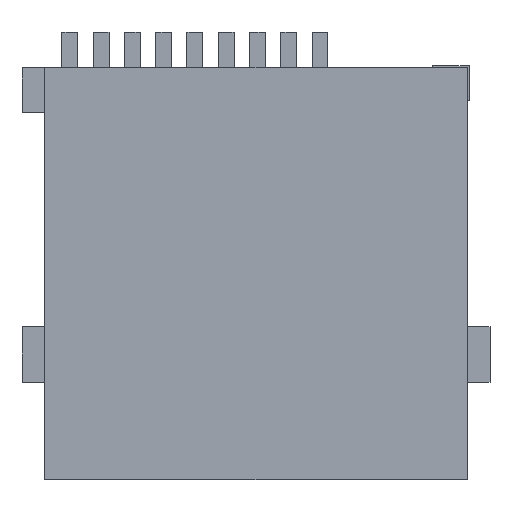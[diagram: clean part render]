
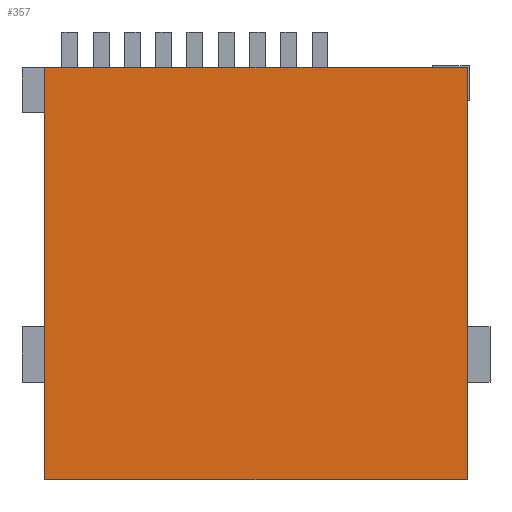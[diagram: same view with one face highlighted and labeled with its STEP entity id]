
A CAD part, top view. The second image highlights one B-rep face of the part: STEP entity #357.
In plain terms, the highlighted planar face has unit normal (0, 0, 1).
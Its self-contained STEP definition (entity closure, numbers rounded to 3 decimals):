
#43 = VERTEX_POINT('',#44);
#44 = CARTESIAN_POINT('',(-7.425,7.,2.));
#51 = PLANE('',#52);
#52 = AXIS2_PLACEMENT_3D('',#53,#54,#55);
#53 = CARTESIAN_POINT('',(-7.425,7.,0.));
#54 = DIRECTION('',(0.,1.,0.));
#55 = DIRECTION('',(1.,0.,0.));
#63 = PLANE('',#64);
#64 = AXIS2_PLACEMENT_3D('',#65,#66,#67);
#65 = CARTESIAN_POINT('',(-7.425,-7.5,0.));
#66 = DIRECTION('',(-1.,0.,0.));
#67 = DIRECTION('',(0.,1.,0.));
#75 = EDGE_CURVE('',#43,#76,#78,.T.);
#76 = VERTEX_POINT('',#77);
#77 = CARTESIAN_POINT('',(7.425,7.,2.));
#78 = SURFACE_CURVE('',#79,(#83,#90),.PCURVE_S1.);
#79 = LINE('',#80,#81);
#80 = CARTESIAN_POINT('',(-7.425,7.,2.));
#81 = VECTOR('',#82,1.);
#82 = DIRECTION('',(1.,0.,0.));
#83 = PCURVE('',#51,#84);
#84 = DEFINITIONAL_REPRESENTATION('',(#85),#89);
#85 = LINE('',#86,#87);
#86 = CARTESIAN_POINT('',(0.,-2.));
#87 = VECTOR('',#88,1.);
#88 = DIRECTION('',(1.,0.));
#89 = ( GEOMETRIC_REPRESENTATION_CONTEXT(2) 
PARAMETRIC_REPRESENTATION_CONTEXT() REPRESENTATION_CONTEXT('2D SPACE',''
  ) );
#90 = PCURVE('',#91,#96);
#91 = PLANE('',#92);
#92 = AXIS2_PLACEMENT_3D('',#93,#94,#95);
#93 = CARTESIAN_POINT('',(0.,-0.25,2.));
#94 = DIRECTION('',(-0.,-0.,-1.));
#95 = DIRECTION('',(-1.,0.,0.));
#96 = DEFINITIONAL_REPRESENTATION('',(#97),#101);
#97 = LINE('',#98,#99);
#98 = CARTESIAN_POINT('',(7.425,7.25));
#99 = VECTOR('',#100,1.);
#100 = DIRECTION('',(-1.,0.));
#101 = ( GEOMETRIC_REPRESENTATION_CONTEXT(2) 
PARAMETRIC_REPRESENTATION_CONTEXT() REPRESENTATION_CONTEXT('2D SPACE',''
  ) );
#119 = PLANE('',#120);
#120 = AXIS2_PLACEMENT_3D('',#121,#122,#123);
#121 = CARTESIAN_POINT('',(7.425,7.,0.));
#122 = DIRECTION('',(1.,0.,-0.));
#123 = DIRECTION('',(0.,-1.,0.));
#161 = EDGE_CURVE('',#76,#162,#164,.T.);
#162 = VERTEX_POINT('',#163);
#163 = CARTESIAN_POINT('',(7.425,-7.5,2.));
#164 = SURFACE_CURVE('',#165,(#169,#176),.PCURVE_S1.);
#165 = LINE('',#166,#167);
#166 = CARTESIAN_POINT('',(7.425,7.,2.));
#167 = VECTOR('',#168,1.);
#168 = DIRECTION('',(0.,-1.,0.));
#169 = PCURVE('',#119,#170);
#170 = DEFINITIONAL_REPRESENTATION('',(#171),#175);
#171 = LINE('',#172,#173);
#172 = CARTESIAN_POINT('',(0.,-2.));
#173 = VECTOR('',#174,1.);
#174 = DIRECTION('',(1.,0.));
#175 = ( GEOMETRIC_REPRESENTATION_CONTEXT(2) 
PARAMETRIC_REPRESENTATION_CONTEXT() REPRESENTATION_CONTEXT('2D SPACE',''
  ) );
#176 = PCURVE('',#91,#177);
#177 = DEFINITIONAL_REPRESENTATION('',(#178),#182);
#178 = LINE('',#179,#180);
#179 = CARTESIAN_POINT('',(-7.425,7.25));
#180 = VECTOR('',#181,1.);
#181 = DIRECTION('',(0.,-1.));
#182 = ( GEOMETRIC_REPRESENTATION_CONTEXT(2) 
PARAMETRIC_REPRESENTATION_CONTEXT() REPRESENTATION_CONTEXT('2D SPACE',''
  ) );
#200 = PLANE('',#201);
#201 = AXIS2_PLACEMENT_3D('',#202,#203,#204);
#202 = CARTESIAN_POINT('',(7.425,-7.5,0.));
#203 = DIRECTION('',(0.,-1.,0.));
#204 = DIRECTION('',(-1.,0.,0.));
#237 = EDGE_CURVE('',#162,#238,#240,.T.);
#238 = VERTEX_POINT('',#239);
#239 = CARTESIAN_POINT('',(-7.425,-7.5,2.));
#240 = SURFACE_CURVE('',#241,(#245,#252),.PCURVE_S1.);
#241 = LINE('',#242,#243);
#242 = CARTESIAN_POINT('',(7.425,-7.5,2.));
#243 = VECTOR('',#244,1.);
#244 = DIRECTION('',(-1.,0.,0.));
#245 = PCURVE('',#200,#246);
#246 = DEFINITIONAL_REPRESENTATION('',(#247),#251);
#247 = LINE('',#248,#249);
#248 = CARTESIAN_POINT('',(0.,-2.));
#249 = VECTOR('',#250,1.);
#250 = DIRECTION('',(1.,0.));
#251 = ( GEOMETRIC_REPRESENTATION_CONTEXT(2) 
PARAMETRIC_REPRESENTATION_CONTEXT() REPRESENTATION_CONTEXT('2D SPACE',''
  ) );
#252 = PCURVE('',#91,#253);
#253 = DEFINITIONAL_REPRESENTATION('',(#254),#258);
#254 = LINE('',#255,#256);
#255 = CARTESIAN_POINT('',(-7.425,-7.25));
#256 = VECTOR('',#257,1.);
#257 = DIRECTION('',(1.,0.));
#258 = ( GEOMETRIC_REPRESENTATION_CONTEXT(2) 
PARAMETRIC_REPRESENTATION_CONTEXT() REPRESENTATION_CONTEXT('2D SPACE',''
  ) );
#308 = EDGE_CURVE('',#238,#43,#309,.T.);
#309 = SURFACE_CURVE('',#310,(#314,#321),.PCURVE_S1.);
#310 = LINE('',#311,#312);
#311 = CARTESIAN_POINT('',(-7.425,-7.5,2.));
#312 = VECTOR('',#313,1.);
#313 = DIRECTION('',(0.,1.,0.));
#314 = PCURVE('',#63,#315);
#315 = DEFINITIONAL_REPRESENTATION('',(#316),#320);
#316 = LINE('',#317,#318);
#317 = CARTESIAN_POINT('',(0.,-2.));
#318 = VECTOR('',#319,1.);
#319 = DIRECTION('',(1.,0.));
#320 = ( GEOMETRIC_REPRESENTATION_CONTEXT(2) 
PARAMETRIC_REPRESENTATION_CONTEXT() REPRESENTATION_CONTEXT('2D SPACE',''
  ) );
#321 = PCURVE('',#91,#322);
#322 = DEFINITIONAL_REPRESENTATION('',(#323),#327);
#323 = LINE('',#324,#325);
#324 = CARTESIAN_POINT('',(7.425,-7.25));
#325 = VECTOR('',#326,1.);
#326 = DIRECTION('',(0.,1.));
#327 = ( GEOMETRIC_REPRESENTATION_CONTEXT(2) 
PARAMETRIC_REPRESENTATION_CONTEXT() REPRESENTATION_CONTEXT('2D SPACE',''
  ) );
#357 = ADVANCED_FACE('',(#358),#91,.F.);
#358 = FACE_BOUND('',#359,.F.);
#359 = EDGE_LOOP('',(#360,#361,#362,#363));
#360 = ORIENTED_EDGE('',*,*,#75,.T.);
#361 = ORIENTED_EDGE('',*,*,#161,.T.);
#362 = ORIENTED_EDGE('',*,*,#237,.T.);
#363 = ORIENTED_EDGE('',*,*,#308,.T.);
